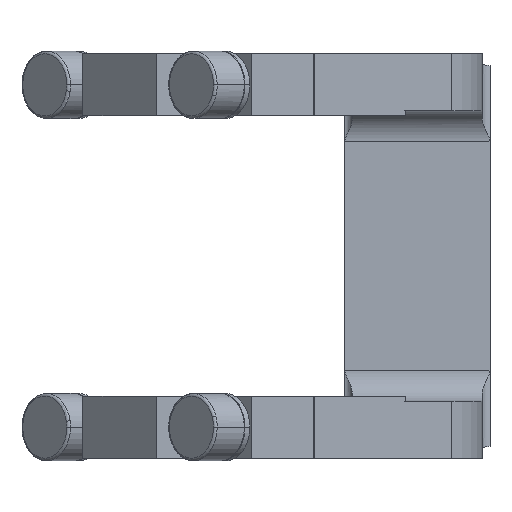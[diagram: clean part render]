
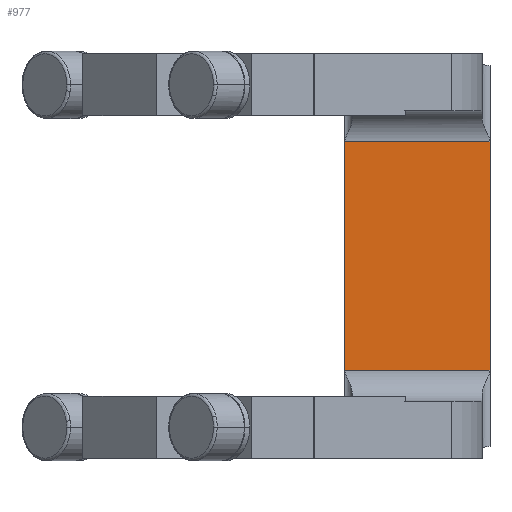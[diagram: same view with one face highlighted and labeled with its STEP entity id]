
A CAD part, front view. The second image highlights one B-rep face of the part: STEP entity #977.
In plain terms, the highlighted planar face has unit normal (0, -1, 0).
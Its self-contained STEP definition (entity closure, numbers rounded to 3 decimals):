
#325=CARTESIAN_POINT('Vertex',(53.,80.,22.)) ;
#386=CARTESIAN_POINT('Vertex',(25.,80.,22.)) ;
#389=CARTESIAN_POINT('Line Origine',(5.5,80.,22.)) ;
#818=CARTESIAN_POINT('Line Origine',(53.,80.,0.)) ;
#822=CARTESIAN_POINT('Vertex',(53.,80.,-22.)) ;
#954=CARTESIAN_POINT('Axis2P3D Location',(53.,80.,22.)) ;
#959=CARTESIAN_POINT('Line Origine',(25.,80.,0.)) ;
#963=CARTESIAN_POINT('Vertex',(25.,80.,-22.)) ;
#966=CARTESIAN_POINT('Line Origine',(39.,80.,-22.)) ;
#390=DIRECTION('Vector Direction',(1.,0.,0.)) ;
#819=DIRECTION('Vector Direction',(0.,0.,1.)) ;
#955=DIRECTION('Axis2P3D Direction',(0.,1.,0.)) ;
#956=DIRECTION('Axis2P3D XDirection',(0.,0.,-1.)) ;
#960=DIRECTION('Vector Direction',(0.,0.,-1.)) ;
#967=DIRECTION('Vector Direction',(-1.,0.,0.)) ;
#957=AXIS2_PLACEMENT_3D('Plane Axis2P3D',#954,#955,#956) ;
#972=ORIENTED_EDGE('',*,*,#965,.F.) ;
#973=ORIENTED_EDGE('',*,*,#970,.F.) ;
#974=ORIENTED_EDGE('',*,*,#824,.T.) ;
#975=ORIENTED_EDGE('',*,*,#393,.T.) ;
#391=VECTOR('Line Direction',#390,1.) ;
#820=VECTOR('Line Direction',#819,1.) ;
#961=VECTOR('Line Direction',#960,1.) ;
#968=VECTOR('Line Direction',#967,1.) ;
#977=ADVANCED_FACE('Brep With Voids',(#976),#958,.F.) ;
#393=EDGE_CURVE('',#326,#387,#392,.F.) ;
#824=EDGE_CURVE('',#823,#326,#821,.T.) ;
#965=EDGE_CURVE('',#964,#387,#962,.F.) ;
#970=EDGE_CURVE('',#823,#964,#969,.T.) ;
#971=EDGE_LOOP('',(#972,#973,#974,#975)) ;
#976=FACE_OUTER_BOUND('',#971,.T.) ;
#392=LINE('Line',#389,#391) ;
#821=LINE('Line',#818,#820) ;
#962=LINE('Line',#959,#961) ;
#969=LINE('Line',#966,#968) ;
#958=PLANE('Plane',#957) ;
#326=VERTEX_POINT('',#325) ;
#387=VERTEX_POINT('',#386) ;
#823=VERTEX_POINT('',#822) ;
#964=VERTEX_POINT('',#963) ;
